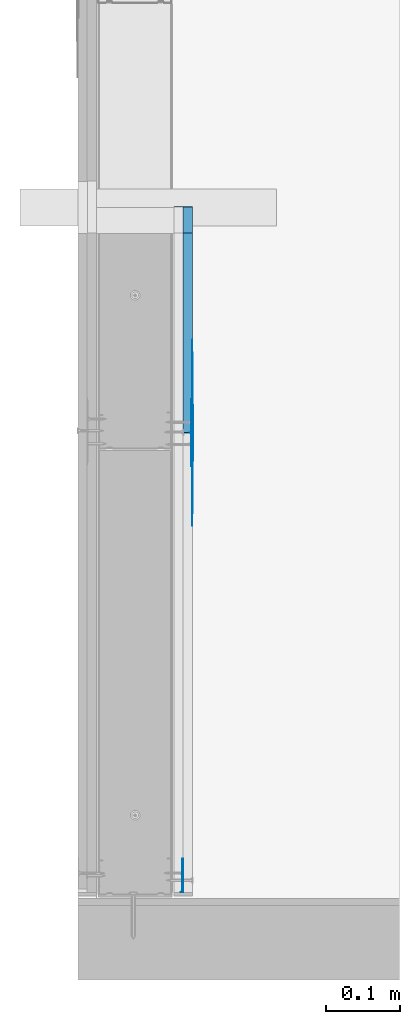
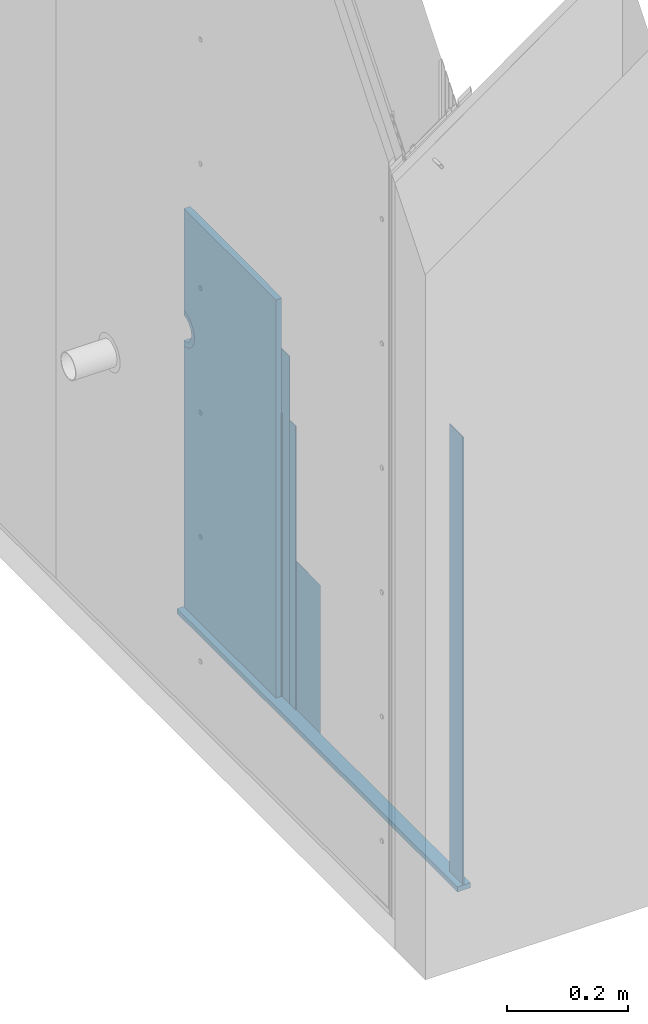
# One storey, part 9 of 92: 7 walls.
"""IFC2X3 building model written with IfcOpenShell, lengths in millimetres."""

from ifc_helpers import new_model, si_unit, frame, origin_with_axes, place, context, subcontext, project, spatial, faceted_brep, material, type_object, element, save


model = new_model("IFC2X3")

# Units and contexts
model_context = context("Model", 3, world=origin_with_axes())
body_context = subcontext(model_context, "Body", "Model", "MODEL_VIEW")
ifc_project = project(units=[si_unit("LENGTHUNIT", "METRE", prefix="MILLI"), si_unit("AREAUNIT", "SQUARE_METRE"), si_unit("VOLUMEUNIT", "CUBIC_METRE")], contexts=[model_context])

# Site, building, storey
site_placement = place(None, origin_with_axes())
site = spatial("IfcSite", under=ifc_project, at=site_placement, Name="Default Site", CompositionType="ELEMENT")
building_placement = place(site_placement, origin_with_axes())
building = spatial("IfcBuilding", under=site, at=building_placement, Name="Default Building", CompositionType="ELEMENT")
storey_placement = place(building_placement, origin_with_axes())
storey = spatial("IfcBuildingStorey", under=building, at=storey_placement, Name="Default Building Storey", CompositionType="ELEMENT", Elevation=0.0)

# Walls
ifc_material_1 = material(Name="M08_Obsidian_Black")
wall_type_1 = type_object("IfcWallType", Name="Wypełnienie masą szpachlową RIGIPS#2", PredefinedType="NOTDEFINED")
wall_1_placement = place(storey_placement, frame((154.00763610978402, 1040.3606047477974, 679.9925650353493), z_axis=(0.0, 0.0, 1.0), x_axis=(-4.718447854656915e-16, 1.0, 0.0)))
element("IfcWall", 1, at=wall_1_placement, inside=storey, type_object=wall_type_1, material=ifc_material_1, Name="Wypełnienie masą szpachlową RIGIPS", context=body_context, shape_type="Brep", body=[
    faceted_brep([(0.0, 12.50000009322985, -84.9303099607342), (0.0, 12.50000009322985, -74.74771466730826), (0.0, 0.0, -74.74771466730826), (0.0, 0.0, -84.9303099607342), (-2.1976681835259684, 12.50000009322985, -84.8612454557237), (-4.386663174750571, 12.50000009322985, -84.65432450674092), (-6.558346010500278, 12.50000009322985, -84.31036373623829), (-8.704146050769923, 12.50000009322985, -83.8307206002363), (-10.815594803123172, 12.50000009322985, -83.21728803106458), (-12.884359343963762, 12.50000009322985, -82.47248696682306), (-14.902275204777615, 12.50000009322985, -81.59925679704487), (-16.86137859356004, 12.50000009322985, -80.60104376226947), (-18.753937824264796, 12.50000009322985, -79.48178735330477), (-20.57248383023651, 12.50000009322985, -78.2459047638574), (-22.309839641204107, 12.50000009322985, -76.89827345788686), (-23.959148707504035, 12.50000009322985, -75.44421192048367), (-25.513901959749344, 12.50000009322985, -73.88945866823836), (-26.967963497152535, 12.50000009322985, -72.24014960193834), (-28.31559480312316, 12.50000009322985, -70.50279379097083), (-29.55147739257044, 12.50000009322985, -68.68424778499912), (-30.670733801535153, 12.50000009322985, -66.79168855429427), (-31.668946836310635, 12.50000009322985, -64.83258516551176), (-32.54217700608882, 12.50000009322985, -62.8146693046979), (-33.28697807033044, 12.50000009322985, -60.7459047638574), (-33.900410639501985, 12.50000009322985, -58.634456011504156), (-34.38005377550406, 12.50000009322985, -56.4886559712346), (-34.724014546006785, 12.50000009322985, -54.31697313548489), (-34.93093549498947, 12.50000009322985, -52.1279781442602), (-34.99999999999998, 12.50000009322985, -49.930309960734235), (-34.93093549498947, 12.50000009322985, -47.732641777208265), (-34.724014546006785, 12.50000009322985, -45.54364678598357), (-34.38005377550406, 12.50000009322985, -43.37196395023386), (-33.900410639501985, 12.50000009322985, -41.226163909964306), (-33.28697807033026, 12.50000009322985, -39.11471515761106), (-32.54217700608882, 12.50000009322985, -37.04595061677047), (-31.668946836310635, 12.50000009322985, -35.02803475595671), (-30.670733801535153, 12.50000009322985, -33.068931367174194), (-29.55147739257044, 12.50000009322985, -31.176372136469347), (-28.31559480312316, 12.50000009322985, -29.35782613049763), (-26.967963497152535, 12.50000009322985, -27.620470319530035), (-25.513901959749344, 12.50000009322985, -25.971161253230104), (-23.959148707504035, 12.50000009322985, -24.4164080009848), (-22.309839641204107, 12.50000009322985, -22.962346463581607), (-20.57248383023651, 12.50000009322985, -21.61471515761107), (-18.753937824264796, 12.50000009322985, -20.3788325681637), (-16.86137859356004, 12.50000009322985, -19.25957615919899), (-14.902275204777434, 12.50000009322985, -18.261363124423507), (-12.884359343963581, 12.50000009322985, -17.38813295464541), (-10.815594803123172, 12.50000009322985, -16.643331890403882), (-8.704146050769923, 12.50000009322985, -16.029899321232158), (-6.558346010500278, 12.50000009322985, -15.550256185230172), (-4.386663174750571, 12.50000009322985, -15.206295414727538), (-2.1976681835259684, 12.50000009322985, -14.999374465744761), (0.0, 12.50000009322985, -14.93030996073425), (0.0, 12.50000009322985, -25.112905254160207), (-4.503166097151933, 12.50000009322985, -25.339224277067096), (-10.714365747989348, 12.50000009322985, -27.342650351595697), (-16.19539907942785, 12.50000009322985, -30.885388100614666), (-20.57274272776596, 12.50000009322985, -35.726005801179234), (-23.5480879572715, 12.50000009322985, -41.53462335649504), (-24.918669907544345, 12.50000009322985, -47.91539307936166), (-24.59108568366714, 12.50000009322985, -54.43347605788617), (-22.587659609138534, 12.50000009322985, -60.64467570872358), (-19.04492186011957, 12.50000009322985, -66.12570904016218), (-14.204304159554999, 12.50000009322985, -70.50305268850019), (-8.395686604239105, 12.50000009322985, -73.47839791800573), (-2.0149168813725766, 12.50000009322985, -74.84897986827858), (-2.0149168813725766, 0.0, -74.84897986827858), (-8.395686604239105, 0.0, -73.47839791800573), (-14.204304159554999, 0.0, -70.50305268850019), (-19.04492186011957, 0.0, -66.12570904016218), (-22.587659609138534, 0.0, -60.64467570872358), (-24.59108568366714, 0.0, -54.43347605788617), (-24.918669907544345, 0.0, -47.91539307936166), (-23.5480879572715, 0.0, -41.53462335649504), (-20.57274272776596, 0.0, -35.726005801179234), (-16.19539907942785, 0.0, -30.885388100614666), (-10.714365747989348, 0.0, -27.342650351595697), (-4.503166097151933, 0.0, -25.339224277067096), (0.0, 0.0, -25.112905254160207), (0.0, 0.0, -14.93030996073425), (-2.1976681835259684, 0.0, -14.999374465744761), (-4.386663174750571, 0.0, -15.206295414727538), (-6.558346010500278, 0.0, -15.550256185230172), (-8.704146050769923, 0.0, -16.029899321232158), (-10.815594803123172, 0.0, -16.643331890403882), (-12.884359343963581, 0.0, -17.38813295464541), (-14.902275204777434, 0.0, -18.261363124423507), (-16.86137859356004, 0.0, -19.25957615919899), (-18.753937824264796, 0.0, -20.3788325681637), (-20.57248383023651, 0.0, -21.61471515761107), (-22.309839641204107, 0.0, -22.962346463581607), (-23.959148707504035, 0.0, -24.4164080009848), (-25.513901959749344, 0.0, -25.971161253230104), (-26.967963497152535, 0.0, -27.620470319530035), (-28.31559480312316, 0.0, -29.35782613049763), (-29.55147739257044, 0.0, -31.176372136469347), (-30.670733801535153, 0.0, -33.068931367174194), (-31.668946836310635, 0.0, -35.02803475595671), (-32.54217700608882, 0.0, -37.04595061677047), (-33.28697807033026, 0.0, -39.11471515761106), (-33.900410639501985, 0.0, -41.226163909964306), (-34.38005377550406, 0.0, -43.37196395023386), (-34.724014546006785, 0.0, -45.54364678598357), (-34.93093549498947, 0.0, -47.732641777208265), (-34.99999999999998, 0.0, -49.930309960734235), (-34.93093549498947, 0.0, -52.1279781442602), (-34.724014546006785, 0.0, -54.31697313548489), (-34.38005377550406, 0.0, -56.4886559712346), (-33.900410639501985, 0.0, -58.634456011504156), (-33.28697807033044, 0.0, -60.7459047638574), (-32.54217700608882, 0.0, -62.8146693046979), (-31.668946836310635, 0.0, -64.83258516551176), (-30.670733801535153, 0.0, -66.79168855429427), (-29.55147739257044, 0.0, -68.68424778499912), (-28.31559480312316, 0.0, -70.50279379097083), (-26.967963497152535, 0.0, -72.24014960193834), (-25.513901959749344, 0.0, -73.88945866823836), (-23.959148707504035, 0.0, -75.44421192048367), (-22.309839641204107, 0.0, -76.89827345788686), (-20.57248383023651, 0.0, -78.2459047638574), (-18.753937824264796, 0.0, -79.48178735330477), (-16.86137859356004, 0.0, -80.60104376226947), (-14.902275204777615, 0.0, -81.59925679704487), (-12.884359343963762, 0.0, -82.47248696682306), (-10.815594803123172, 0.0, -83.21728803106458), (-8.704146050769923, 0.0, -83.8307206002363), (-6.558346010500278, 0.0, -84.31036373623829), (-4.386663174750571, 0.0, -84.65432450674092), (-2.1976681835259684, 0.0, -84.8612454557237)], [[[0, 1, 2, 3]], [[1, 0, 4, 5, 6, 7, 8, 9, 10, 11, 12, 13, 14, 15, 16, 17, 18, 19, 20, 21, 22, 23, 24, 25, 26, 27, 28, 29, 30, 31, 32, 33, 34, 35, 36, 37, 38, 39, 40, 41, 42, 43, 44, 45, 46, 47, 48, 49, 50, 51, 52, 53, 54, 55, 56, 57, 58, 59, 60, 61, 62, 63, 64, 65, 66]], [[3, 2, 67, 68, 69, 70, 71, 72, 73, 74, 75, 76, 77, 78, 79, 80, 81, 82, 83, 84, 85, 86, 87, 88, 89, 90, 91, 92, 93, 94, 95, 96, 97, 98, 99, 100, 101, 102, 103, 104, 105, 106, 107, 108, 109, 110, 111, 112, 113, 114, 115, 116, 117, 118, 119, 120, 121, 122, 123, 124, 125, 126, 127, 128, 129]], [[3, 129, 4, 0]], [[129, 128, 5, 4]], [[128, 127, 6, 5]], [[127, 126, 7, 6]], [[126, 125, 8, 7]], [[125, 124, 9, 8]], [[124, 123, 10, 9]], [[123, 122, 11, 10]], [[122, 121, 12, 11]], [[121, 120, 13, 12]], [[120, 119, 14, 13]], [[119, 118, 15, 14]], [[118, 117, 16, 15]], [[117, 116, 17, 16]], [[116, 115, 18, 17]], [[115, 114, 19, 18]], [[114, 113, 20, 19]], [[113, 112, 21, 20]], [[112, 111, 22, 21]], [[111, 110, 23, 22]], [[110, 109, 24, 23]], [[109, 108, 25, 24]], [[108, 107, 26, 25]], [[107, 106, 27, 26]], [[106, 105, 28, 27]], [[105, 104, 29, 28]], [[104, 103, 30, 29]], [[103, 102, 31, 30]], [[102, 101, 32, 31]], [[101, 100, 33, 32]], [[100, 99, 34, 33]], [[99, 98, 35, 34]], [[98, 97, 36, 35]], [[97, 96, 37, 36]], [[96, 95, 38, 37]], [[95, 94, 39, 38]], [[94, 93, 40, 39]], [[93, 92, 41, 40]], [[92, 91, 42, 41]], [[91, 90, 43, 42]], [[90, 89, 44, 43]], [[89, 88, 45, 44]], [[88, 87, 46, 45]], [[87, 86, 47, 46]], [[86, 85, 48, 47]], [[85, 84, 49, 48]], [[84, 83, 50, 49]], [[83, 82, 51, 50]], [[82, 81, 52, 51]], [[81, 80, 53, 52]], [[79, 78, 55, 54]], [[78, 77, 56, 55]], [[77, 76, 57, 56]], [[76, 75, 58, 57]], [[75, 74, 59, 58]], [[74, 73, 60, 59]], [[73, 72, 61, 60]], [[72, 71, 62, 61]], [[71, 70, 63, 62]], [[70, 69, 64, 63]], [[69, 68, 65, 64]], [[68, 67, 66, 65]], [[67, 2, 1, 66]], [[79, 54, 53, 80]]]),
])
ifc_material_2 = material(Name="Undefined5")
wall_type_2 = type_object("IfcWallType", Name="Masa szpachlowa konstrukcyjna RIGIPS#9", PredefinedType="NOTDEFINED")
wall_2_placement = place(storey_placement, frame((-3249.060549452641, -619.4844335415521, 319.1924734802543), z_axis=(0.0, 0.0, 1.0), x_axis=(-8.743006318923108e-16, -1.0, 0.0)))
element("IfcWall", 2, at=wall_2_placement, inside=storey, type_object=wall_type_2, material=ifc_material_2, Name="Masa szpachlowa konstrukcyjna RIGIPS", context=body_context, shape_type="Brep", body=[
    faceted_brep([(-737.5571131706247, 3387.974739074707, 650.7999897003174), (-737.4838590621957, 3387.669563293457, 650.7999897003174), (-737.4592423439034, 3390.556812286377, 650.7999897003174), (-782.4591994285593, 3390.556812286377, 650.7999897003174), (-782.4591994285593, 3389.3566131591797, 650.7999897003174), (-739.4592165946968, 3389.3566131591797, 650.7999897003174), (-739.1463518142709, 3389.3320560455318, 650.7999897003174), (-738.8411760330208, 3389.258861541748, 650.7999897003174), (-738.5512590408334, 3389.138698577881, 650.7999897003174), (-738.2836341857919, 3388.9746665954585, 650.7999897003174), (-738.0449771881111, 3388.770818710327, 650.7999897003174), (-737.8411889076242, 3388.532400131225, 650.7999897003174), (-737.677216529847, 3388.2646560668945, 650.7999897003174), (-782.4591994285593, 3390.556812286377, -249.20158088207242), (-737.4592423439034, 3390.556812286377, -249.20158088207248), (-737.4838590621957, 3387.669563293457, -249.20158088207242), (-737.5571131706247, 3387.974739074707, -249.20158088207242), (-737.677216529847, 3388.2646560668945, -249.20158088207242), (-737.8411889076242, 3388.532400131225, -249.20158088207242), (-738.0449771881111, 3388.770818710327, -249.20158088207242), (-738.2836341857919, 3388.9746665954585, -249.20158088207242), (-738.5512590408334, 3389.138698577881, -249.20158088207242), (-738.8411760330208, 3389.258861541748, -249.20158088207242), (-739.1463518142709, 3389.3320560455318, -249.20158088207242), (-739.4592165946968, 3389.3566131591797, -249.20158088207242), (-782.4591994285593, 3389.3566131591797, -249.20158088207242)], [[[0, 1, 2, 3, 4, 5, 6, 7, 8, 9, 10, 11, 12]], [[13, 14, 15, 16, 17, 18, 19, 20, 21, 22, 23, 24, 25]], [[1, 0, 16, 15]], [[12, 17, 16, 0]], [[11, 10, 19, 18]], [[18, 17, 12, 11]], [[9, 8, 21, 20]], [[20, 19, 10, 9]], [[7, 22, 21, 8]], [[6, 5, 24, 23]], [[23, 22, 7, 6]], [[24, 5, 4, 25]], [[25, 4, 3, 13]], [[2, 14, 13, 3]], [[2, 1, 15, 14]]]),
])
ifc_material_3 = material(Name="Default")
wall_type_3 = type_object("IfcWallType", Name="Masa szpachlowa wykończeniowa RIGIPS", PredefinedType="NOTDEFINED")
wall_3_placement = place(storey_placement, frame((-3236.5605492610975, -0.8407208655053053, 67.54098379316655), z_axis=(0.0, 0.0, 1.0), x_axis=(-8.743006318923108e-16, -1.0, 0.0)))
element("IfcWall", 3, at=wall_3_placement, inside=storey, type_object=wall_type_3, material=ifc_material_3, Name="Masa szpachlowa wykończeniowa RIGIPS", context=body_context, shape_type="Brep", body=[
    faceted_brep([(-612.4592423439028, 3390.5568122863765, 2.4499970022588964), (-862.4592423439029, 3390.556812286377, 2.4499970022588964), (-812.4612569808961, 3391.1967277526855, 2.4499970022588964), (-762.4602317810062, 3391.516685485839, 2.4499970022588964), (-712.4581933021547, 3391.516685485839, 2.4499970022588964), (-662.4571681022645, 3391.1967277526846, 2.4499970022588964), (-762.4602317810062, 3391.516685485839, 300.79999566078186), (-812.4612569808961, 3391.1967277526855, 300.79999566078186), (-862.4592423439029, 3390.556812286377, 300.79999566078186), (-612.4592423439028, 3390.5568122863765, 300.79999566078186), (-662.4571681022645, 3391.1967277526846, 300.79999566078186), (-712.4581933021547, 3391.516685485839, 300.79999566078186)], [[[0, 1, 2, 3, 4, 5]], [[6, 7, 8, 9, 10, 11]], [[9, 0, 5, 10]], [[10, 5, 4, 11]], [[11, 4, 3, 6]], [[6, 3, 2, 7]], [[1, 8, 7, 2]], [[0, 9, 8, 1]]]),
])
wall_type_4 = type_object("IfcWallType", Name="Masa szpachlowa konstrukcyjna RIGIPS#13", PredefinedType="NOTDEFINED")
wall_4_placement = place(storey_placement, frame((153.64617269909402, 1422.3264450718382, 59.98654854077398), z_axis=(0.0, 0.0, 1.0), x_axis=(4.0245584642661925e-16, 1.0, 0.0)))
element("IfcWall", 4, at=wall_4_placement, inside=storey, type_object=wall_type_4, material=ifc_material_2, Name="Masa szpachlowa konstrukcyjna RIGIPS", context=body_context, shape_type="Brep", body=[
    faceted_brep([(-381.2109465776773, 24.64617043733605, -5.639932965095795e-14), (-381.2109465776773, -0.35000000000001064, -5.639932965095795e-14), (-1304.322053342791, -0.34999999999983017, -5.639932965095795e-14), (-1304.322053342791, 24.64617043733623, -5.639932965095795e-14), (-381.2109465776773, -0.35000000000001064, 10.00439262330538), (-1304.322053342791, -0.34999999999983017, 10.00439262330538), (-381.2109465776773, 24.64617043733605, 10.00439262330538), (-1304.322053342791, 24.64617043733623, 10.00439262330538)], [[[0, 1, 2, 3]], [[1, 4, 5, 2]], [[4, 6, 7, 5]], [[6, 0, 3, 7]], [[7, 3, 2, 5]], [[0, 6, 4, 1]]]),
])
wall_type_5 = type_object("IfcWallType", Name="Masa szpachlowa konstrukcyjna RIGIPS#12", PredefinedType="NOTDEFINED")
wall_5_placement = place(storey_placement, frame((-3236.5605492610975, -0.8407208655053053, 67.54098379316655), z_axis=(0.0, 0.0, 1.0), x_axis=(-8.743006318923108e-16, -1.0, 0.0)))
element("IfcWall", 5, at=wall_5_placement, inside=storey, type_object=wall_type_5, material=ifc_material_3, Name="Masa szpachlowa konstrukcyjna RIGIPS", context=body_context, shape_type="Brep", body=[
    faceted_brep([(-737.4838590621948, 3387.669563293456, 572.7999777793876), (-737.4592423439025, 3387.356758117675, 572.7999777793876), (-737.4345660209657, 3387.669563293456, 572.7999777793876), (-737.3613119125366, 3387.974739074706, 572.7999777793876), (-737.2412085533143, 3388.2646560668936, 572.7999777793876), (-737.0772361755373, 3388.5324001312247, 572.7999777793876), (-736.87344789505, 3388.7708187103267, 572.7999777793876), (-736.6347908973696, 3388.974666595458, 572.7999777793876), (-736.3672256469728, 3389.1386985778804, 572.7999777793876), (-736.0772490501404, 3389.258861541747, 572.7999777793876), (-735.7720732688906, 3389.3320560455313, 572.7999777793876), (-735.4592084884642, 3389.3566131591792, 572.7999777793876), (-692.4592256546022, 3389.3566131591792, 572.7999777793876), (-691.4592385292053, 3390.5568122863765, 572.7999777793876), (-782.4591994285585, 3390.556812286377, 572.7999777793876), (-782.4591994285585, 3389.3566131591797, 572.7999777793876), (-739.4592165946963, 3389.3566131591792, 572.7999777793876), (-739.1463518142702, 3389.3320560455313, 572.7999777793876), (-738.8411760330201, 3389.258861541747, 572.7999777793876), (-738.5512590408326, 3389.1386985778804, 572.7999777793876), (-738.2836341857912, 3388.974666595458, 572.7999777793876), (-738.0449771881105, 3388.7708187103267, 572.7999777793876), (-737.8411889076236, 3388.5324001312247, 572.7999777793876), (-737.6772165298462, 3388.2646560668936, 572.7999777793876), (-737.557113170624, 3387.974739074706, 572.7999777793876), (-691.4592385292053, 3390.5568122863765, 2.4499970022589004), (-692.4592256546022, 3389.3566131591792, 2.4499970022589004), (-735.4592084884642, 3389.3566131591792, 2.4499970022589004), (-735.7720732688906, 3389.3320560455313, 2.4499970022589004), (-736.0772490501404, 3389.258861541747, 2.4499970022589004), (-736.3672256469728, 3389.1386985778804, 2.4499970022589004), (-736.6347908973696, 3388.974666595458, 2.4499970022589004), (-736.87344789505, 3388.7708187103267, 2.4499970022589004), (-737.0772361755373, 3388.5324001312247, 2.4499970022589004), (-737.2412085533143, 3388.2646560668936, 2.4499970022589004), (-737.3613119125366, 3387.974739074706, 2.4499970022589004), (-737.4345660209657, 3387.669563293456, 2.4499970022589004), (-737.4592423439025, 3387.356758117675, 2.4499970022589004), (-737.4838590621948, 3387.669563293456, 2.4499970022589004), (-737.557113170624, 3387.974739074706, 2.4499970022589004), (-737.6772165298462, 3388.2646560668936, 2.4499970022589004), (-737.8411889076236, 3388.5324001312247, 2.4499970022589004), (-738.0449771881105, 3388.7708187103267, 2.4499970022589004), (-738.2836341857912, 3388.974666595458, 2.4499970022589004), (-738.5512590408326, 3389.1386985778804, 2.4499970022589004), (-738.8411760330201, 3389.258861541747, 2.4499970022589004), (-739.1463518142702, 3389.3320560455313, 2.4499970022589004), (-739.4592165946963, 3389.3566131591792, 2.4499970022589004), (-782.4591994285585, 3389.3566131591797, 2.4499970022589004), (-782.4591994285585, 3390.556812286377, 2.4499970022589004)], [[[0, 1, 2, 3, 4, 5, 6, 7, 8, 9, 10, 11, 12, 13, 14, 15, 16, 17, 18, 19, 20, 21, 22, 23, 24]], [[25, 26, 27, 28, 29, 30, 31, 32, 33, 34, 35, 36, 37, 38, 39, 40, 41, 42, 43, 44, 45, 46, 47, 48, 49]], [[26, 12, 11, 27]], [[10, 9, 29, 28]], [[28, 27, 11, 10]], [[8, 30, 29, 9]], [[7, 6, 32, 31]], [[31, 30, 8, 7]], [[5, 4, 34, 33]], [[33, 32, 6, 5]], [[3, 35, 34, 4]], [[2, 1, 37, 36]], [[36, 35, 3, 2]], [[0, 24, 39, 38]], [[38, 37, 1, 0]], [[23, 40, 39, 24]], [[22, 21, 42, 41]], [[41, 40, 23, 22]], [[20, 19, 44, 43]], [[43, 42, 21, 20]], [[18, 45, 44, 19]], [[17, 16, 47, 46]], [[46, 45, 18, 17]], [[47, 16, 15, 48]], [[48, 15, 14, 49]], [[49, 14, 13, 25]], [[25, 13, 12, 26]]]),
])
wall_type_6 = type_object("IfcWallType", Name="Taśma spoinowa RIGIPS", PredefinedType="NOTDEFINED")
wall_6_placement = place(storey_placement, frame((-3236.5605492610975, -0.8407208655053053, 67.54098379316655), z_axis=(0.0, 0.0, 1.0), x_axis=(-8.743006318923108e-16, -1.0, 0.0)))
element("IfcWall", 6, at=wall_6_placement, inside=storey, type_object=wall_type_6, material=ifc_material_3, Name="Taśma spoinowa RIGIPS", context=body_context, shape_type="Brep", body=[
    faceted_brep([(-712.4592065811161, 3389.3566131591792, 700.8000016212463), (-712.4592065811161, 3389.8568153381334, 700.8000016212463), (-762.4592185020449, 3389.8568153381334, 700.8000016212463), (-762.4592185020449, 3389.3566131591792, 700.8000016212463), (-712.4592065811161, 3389.8568153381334, 2.4499970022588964), (-712.4592065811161, 3389.3566131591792, 2.4499970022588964), (-762.4592185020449, 3389.3566131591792, 2.4499970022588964), (-762.4592185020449, 3389.8568153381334, 2.4499970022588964)], [[[0, 1, 2, 3]], [[4, 5, 6, 7]], [[5, 0, 3, 6]], [[6, 3, 2, 7]], [[7, 2, 1, 4]], [[4, 1, 0, 5]]]),
])
ifc_material_4 = material(Name="Undefined6")
wall_type_7 = type_object("IfcWallType", Name="Płyta gipsowo-kartonowa RIGIPS PRO (4PRO™)#8", PredefinedType="NOTDEFINED")
wall_7_placement = place(storey_placement, frame((141.49617469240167, 1940.361219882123, 1215.0116642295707), z_axis=(0.0, 0.0, 1.0), x_axis=(6.38530894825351e-13, -1.0, 0.0)))
element("IfcWall", 7, at=wall_7_placement, inside=storey, type_object=wall_type_7, material=ifc_material_4, Name="Płyta gipsowo-kartonowa RIGIPS PRO (4PRO™)", context=body_context, shape_type="Brep", body=[
    faceted_brep([(900.0000119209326, 12.5000001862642, -345.01910181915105), (900.0000119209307, 12.5000001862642, -549.9302145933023), (900.0000119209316, 0.0, -549.9302145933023), (900.0000119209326, -1.8047785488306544e-13, -345.01910181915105), (900.0000119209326, -1.8047785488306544e-13, -1145.0207230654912), (900.0000119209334, 0.0, -619.9302145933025), (900.0000119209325, 12.5000001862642, -619.9302145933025), (900.0000119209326, 12.5000001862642, -1145.0207230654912), (901.8317703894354, 12.50000018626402, -619.8822483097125), (901.8317703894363, -1.8047785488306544e-13, -619.8822483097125), (901.8317703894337, 12.50000018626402, -549.978180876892), (901.8317703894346, -1.8047785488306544e-13, -549.978180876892), (903.6585081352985, 12.5000001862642, -550.1219482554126), (903.6585081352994, 0.0, -550.1219482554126), (905.4752181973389, 12.500000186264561, -550.3611226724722), (905.4752181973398, 3.6095570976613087e-13, -550.3611226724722), (907.2769210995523, 12.5000001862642, -550.6950485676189), (907.2769210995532, 0.0, -550.6950485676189), (909.058678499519, 12.5000001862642, -551.1228106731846), (909.0586784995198, 0.0, -551.1228106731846), (910.815606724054, 12.5000001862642, -551.6432365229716), (910.8156067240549, 0.0, -551.6432365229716), (912.5428901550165, 12.500000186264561, -552.2548996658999), (912.5428901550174, 3.6095570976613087e-13, -552.2548996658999), (914.235794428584, 12.500000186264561, -552.9561235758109), (914.2357944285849, 3.6095570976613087e-13, -552.9561235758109), (915.8896794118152, 12.5000001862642, -553.744986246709), (915.8896794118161, 0.0, -553.744986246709), (917.5000119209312, 12.5000001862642, -554.6193254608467), (917.500011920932, 0.0, -554.6193254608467), (919.0623781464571, 12.500000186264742, -555.5767447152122), (919.0623781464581, 5.414335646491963e-13, -555.5767447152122), (920.5724957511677, 12.5000001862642, -556.6146197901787), (920.5724957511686, 0.0, -556.6146197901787), (922.0262256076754, 12.5000001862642, -557.7301059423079), (922.0262256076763, 0.0, -557.7301059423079), (923.4195831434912, 12.5000001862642, -558.920145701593), (923.4195831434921, 0.0, -558.920145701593), (924.7487492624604, 12.5000001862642, -560.1814772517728), (924.7487492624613, 0.0, -560.1814772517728), (926.0100808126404, 12.5000001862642, -561.510643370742), (926.0100808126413, 0.0, -561.510643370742), (927.2001205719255, 12.500000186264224, -562.9040009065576), (927.2001205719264, 0.0, -562.9040009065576), (928.3156067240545, 12.5000001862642, -564.3577307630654), (928.3156067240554, 0.0, -564.3577307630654), (929.3534817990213, 12.5000001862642, -565.8678483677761), (929.3534817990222, 0.0, -565.8678483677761), (930.3109010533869, 12.5000001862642, -567.430214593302), (930.3109010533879, 0.0, -567.430214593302), (931.1852402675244, 12.500000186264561, -569.0405471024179), (931.1852402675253, 3.6095570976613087e-13, -569.0405471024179), (931.9741029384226, 12.5000001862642, -570.6944320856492), (931.9741029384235, 0.0, -570.6944320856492), (932.6753268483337, 12.5000001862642, -572.3873363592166), (932.6753268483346, 0.0, -572.3873363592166), (933.286989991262, 12.5000001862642, -574.114619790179), (933.2869899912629, 0.0, -574.114619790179), (933.8074158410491, 12.5000001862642, -575.871548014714), (933.80741584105, 0.0, -575.871548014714), (934.235177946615, 12.5000001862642, -577.6533054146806), (934.2351779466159, 0.0, -577.6533054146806), (934.5691038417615, 12.500000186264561, -579.4550083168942), (934.5691038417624, 3.6095570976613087e-13, -579.4550083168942), (934.8082782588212, 12.5000001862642, -581.2717183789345), (934.8082782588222, 0.0, -581.2717183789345), (934.9520456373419, 12.5000001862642, -583.0984561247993), (934.9520456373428, 0.0, -583.0984561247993), (935.0000119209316, 12.5000001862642, -584.9302145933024), (935.0000119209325, 0.0, -584.9302145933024), (934.9520456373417, 12.5000001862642, -586.7619730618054), (934.9520456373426, 0.0, -586.7619730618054), (934.8082782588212, 12.5000001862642, -588.5887108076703), (934.8082782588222, 0.0, -588.5887108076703), (934.5691038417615, 12.500000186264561, -590.4054208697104), (934.5691038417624, 3.6095570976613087e-13, -590.4054208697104), (934.235177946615, 12.5000001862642, -592.2071237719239), (934.2351779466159, 0.0, -592.2071237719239), (933.8074158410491, 12.5000001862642, -593.9888811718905), (933.80741584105, 0.0, -593.9888811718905), (933.2869899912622, 12.5000001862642, -595.7458093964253), (933.2869899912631, 0.0, -595.7458093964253), (932.6753268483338, 12.5000001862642, -597.4730928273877), (932.6753268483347, 0.0, -597.4730928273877), (931.9741029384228, 12.5000001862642, -599.1659971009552), (931.9741029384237, 0.0, -599.1659971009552), (931.1852402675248, 12.500000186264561, -600.8198820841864), (931.1852402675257, 3.6095570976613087e-13, -600.8198820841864), (930.3109010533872, 12.5000001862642, -602.4302145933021), (930.3109010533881, 0.0, -602.4302145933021), (929.3534817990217, 12.5000001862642, -603.9925808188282), (929.3534817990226, 0.0, -603.9925808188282), (928.3156067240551, 12.5000001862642, -605.5026984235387), (928.315606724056, 0.0, -605.5026984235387), (927.2001205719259, 12.500000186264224, -606.9564282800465), (927.2001205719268, 0.0, -606.9564282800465), (926.0100808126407, 12.5000001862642, -608.3497858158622), (926.0100808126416, 0.0, -608.3497858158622), (924.748749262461, 12.5000001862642, -609.6789519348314), (924.748749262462, 0.0, -609.6789519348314), (923.419583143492, 12.5000001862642, -610.9402834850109), (923.4195831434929, 0.0, -610.9402834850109), (922.0262256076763, 12.5000001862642, -612.1303232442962), (922.0262256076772, 0.0, -612.1303232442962), (920.5724957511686, 12.5000001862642, -613.2458093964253), (920.5724957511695, 0.0, -613.2458093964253), (919.0623781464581, 12.500000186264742, -614.283684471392), (919.062378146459, 5.414335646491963e-13, -614.283684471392), (917.500011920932, 12.5000001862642, -615.2411037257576), (917.5000119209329, 0.0, -615.2411037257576), (915.8896794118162, 12.5000001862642, -616.1154429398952), (915.8896794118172, 0.0, -616.1154429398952), (914.2357944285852, 12.500000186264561, -616.9043056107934), (914.2357944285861, 3.6095570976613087e-13, -616.9043056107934), (912.5428901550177, 12.500000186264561, -617.6055295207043), (912.5428901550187, 3.6095570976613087e-13, -617.6055295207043), (910.8156067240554, 12.5000001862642, -618.2171926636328), (910.8156067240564, 0.0, -618.2171926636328), (909.0586784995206, 12.5000001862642, -618.7376185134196), (909.0586784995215, 0.0, -618.7376185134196), (907.276921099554, 12.5000001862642, -619.1653806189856), (907.2769210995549, 0.0, -619.1653806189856), (905.4752181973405, 12.500000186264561, -619.4993065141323), (905.4752181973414, 3.6095570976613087e-13, -619.4993065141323), (903.6585081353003, 12.5000001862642, -619.738480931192), (903.6585081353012, 0.0, -619.738480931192), (1203.3188081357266, 10.758817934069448, -1145.0207230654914), (1203.3188081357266, 10.758817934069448, -345.0191018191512), (1203.3529019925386, 10.499998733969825, -345.0191018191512), (1203.3529019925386, 10.499998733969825, -1145.0207230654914), (1203.2189107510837, 10.99999881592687, -1145.0207230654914), (1203.2189107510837, 10.99999881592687, -345.0191018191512), (1202.8528190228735, 11.366024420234, -1145.0207230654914), (1202.6116586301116, 11.46592459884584, -1145.0207230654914), (1202.6116586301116, 11.46592459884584, -345.0191018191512), (1202.8528190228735, 11.366024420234, -345.0191018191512), (1203.0600047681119, 11.20710539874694, -345.0191018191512), (1202.352855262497, 11.499998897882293, -345.0191018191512), (1162.3528934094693, 11.499998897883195, -345.0191018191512), (1158.3528256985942, 12.499999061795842, -345.0191018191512), (1203.3529019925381, -1.1244703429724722e-06, -345.0191018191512), (1158.3528256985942, 12.499999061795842, -1145.0207230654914), (1203.3529019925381, -1.1244703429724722e-06, -1145.0207230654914), (1162.3528934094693, 11.499998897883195, -1145.0207230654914), (1202.352855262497, 11.499998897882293, -1145.0207230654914), (1203.0600047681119, 11.20710539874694, -1145.0207230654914)], [[[0, 1, 2, 3]], [[4, 5, 6, 7]], [[8, 6, 5, 9]], [[1, 10, 11, 2]], [[10, 12, 13, 11]], [[12, 14, 15, 13]], [[14, 16, 17, 15]], [[16, 18, 19, 17]], [[18, 20, 21, 19]], [[20, 22, 23, 21]], [[22, 24, 25, 23]], [[24, 26, 27, 25]], [[26, 28, 29, 27]], [[28, 30, 31, 29]], [[30, 32, 33, 31]], [[32, 34, 35, 33]], [[34, 36, 37, 35]], [[36, 38, 39, 37]], [[38, 40, 41, 39]], [[40, 42, 43, 41]], [[42, 44, 45, 43]], [[44, 46, 47, 45]], [[46, 48, 49, 47]], [[48, 50, 51, 49]], [[50, 52, 53, 51]], [[52, 54, 55, 53]], [[54, 56, 57, 55]], [[56, 58, 59, 57]], [[58, 60, 61, 59]], [[60, 62, 63, 61]], [[62, 64, 65, 63]], [[64, 66, 67, 65]], [[66, 68, 69, 67]], [[68, 70, 71, 69]], [[70, 72, 73, 71]], [[72, 74, 75, 73]], [[74, 76, 77, 75]], [[76, 78, 79, 77]], [[78, 80, 81, 79]], [[80, 82, 83, 81]], [[82, 84, 85, 83]], [[84, 86, 87, 85]], [[86, 88, 89, 87]], [[88, 90, 91, 89]], [[90, 92, 93, 91]], [[92, 94, 95, 93]], [[94, 96, 97, 95]], [[96, 98, 99, 97]], [[98, 100, 101, 99]], [[100, 102, 103, 101]], [[102, 104, 105, 103]], [[104, 106, 107, 105]], [[106, 108, 109, 107]], [[108, 110, 111, 109]], [[110, 112, 113, 111]], [[112, 114, 115, 113]], [[114, 116, 117, 115]], [[116, 118, 119, 117]], [[118, 120, 121, 119]], [[120, 122, 123, 121]], [[122, 124, 125, 123]], [[124, 8, 9, 125]], [[126, 127, 128, 129]], [[130, 131, 127, 126]], [[132, 133, 134, 135]], [[136, 135, 134, 137, 138, 139, 0, 3, 140, 128, 127, 131]], [[12, 10, 1, 0, 139, 141, 7, 6, 8, 124, 122, 120, 118, 116, 114, 112, 110, 108, 106, 104, 102, 100, 98, 96, 94, 92, 90, 88, 86, 84, 82, 80, 78, 76, 74, 72, 70, 68, 66, 64, 62, 60, 58, 56, 54, 52, 50, 48, 46, 44, 42, 40, 38, 36, 34, 32, 30, 28, 26, 24, 22, 20, 18, 16, 14]], [[129, 128, 140, 142]], [[143, 141, 139, 138]], [[133, 144, 137, 134]], [[145, 132, 135, 136]], [[145, 136, 131, 130]], [[141, 143, 144, 133, 132, 145, 130, 126, 129, 142, 4, 7]], [[144, 143, 138, 137]], [[125, 9, 5, 4, 142, 140, 3, 2, 11, 13, 15, 17, 19, 21, 23, 25, 27, 29, 31, 33, 35, 37, 39, 41, 43, 45, 47, 49, 51, 53, 55, 57, 59, 61, 63, 65, 67, 69, 71, 73, 75, 77, 79, 81, 83, 85, 87, 89, 91, 93, 95, 97, 99, 101, 103, 105, 107, 109, 111, 113, 115, 117, 119, 121, 123]]]),
])

save(model, "model.ifc")
